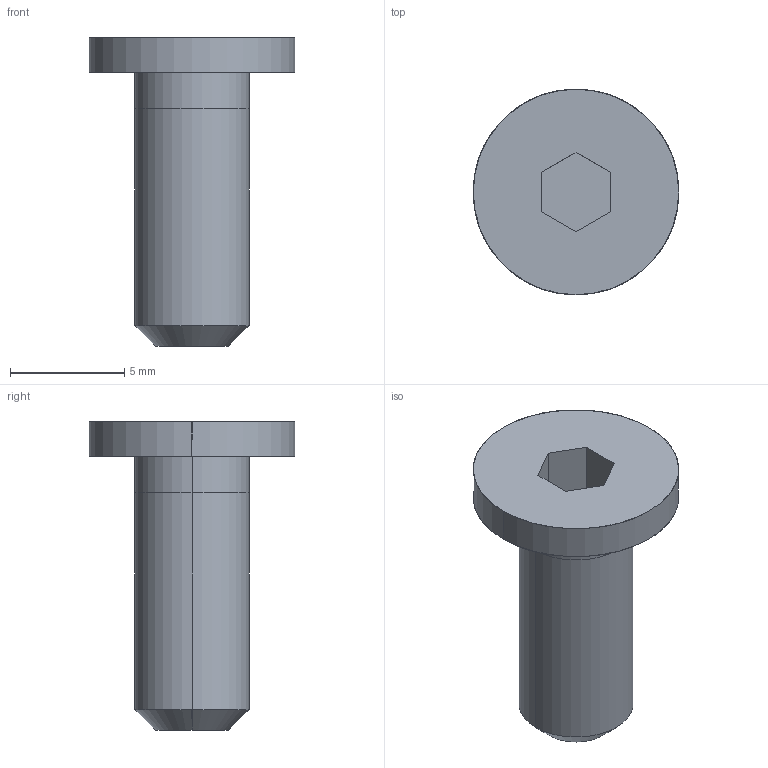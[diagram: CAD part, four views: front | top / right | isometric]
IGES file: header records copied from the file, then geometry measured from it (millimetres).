
Global section: file name: E:\UnigraphicsGraphicData\MISUMI_PRESS-PARTS\IGES\3d_cbss5-12_03483_r00.igs; native system: NX V5.0; preprocessor: UGS NX IGES V5.0; author: MISUMI; date: 20110105.160202; units: millimetre
Bounding box: 9 x 9 x 13.5 mm (x, y, z)
Surface area: 380.4 mm2 (no closed solid volume)
Topology: 0 solids, 0 shells, 18 faces, 100 edges, 100 vertices
Faces by surface type: bspline 18
